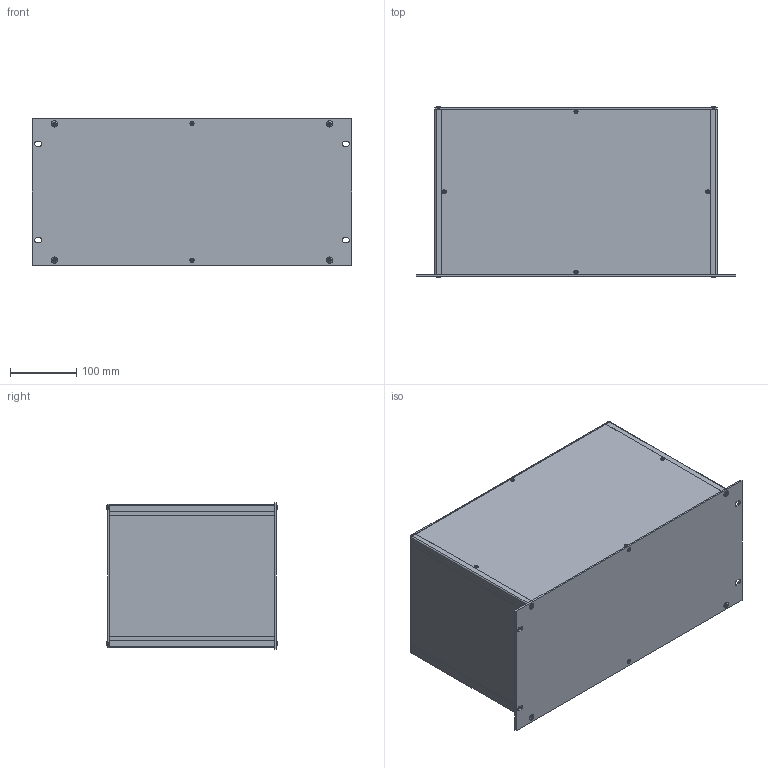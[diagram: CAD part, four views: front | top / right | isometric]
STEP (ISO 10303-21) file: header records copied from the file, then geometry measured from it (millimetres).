
FILE_DESCRIPTION(/* description */ (''),/* implementation_level */ '2;1');
FILE_NAME(/* name */ '//diskstation/Kunden/Gehäuse/Gehäuse/5HE/step/19 Zoll 5HE Rack Gehäuse Tiefe-250.step',/* time_stamp */ '2022-02-17T16:45:04+01:00',/* author */ (''),/* organization */ (''),/* preprocessor_version */ 'ST-DEVELOPER v18.1',/* originating_system */ 'Autodesk Translation Framework v10.10.0.1391',/* authorisation */ '');
FILE_SCHEMA (('AUTOMOTIVE_DESIGN { 1 0 10303 214 3 1 1 }'));
Length unit declared in the file: millimetre
Products named in the file (28): 5HE Gehäuse mit parametern; Gehäuse; Gehäuseprofil 1 unten links; Gehäuseprofil 2 oben rechts; Gehäuseprofil 1 unten rechts; Gehäuseprofil 2 oben links; Rückplatte; Deckel; Seitenteil links; Seitenteil rechts; Bodenplatte; Montageklotz Front/Deckel; Montageklotz Front/Boden; Montageklotz Rück/Deckel; Montageklotz Rück/Boden; Gewindestreifen; Frontplatte; Schrauben M5; Schraube Front; Schraube Front (1); Schraube Front (2); Schraube Front (3); Schraube Rück (1); Schraube Rück; Schraube Rück (2); Schraube Rück (3); Schrauben M3; HI_Senkschraube DIN 965 A v2 M3x5 24677.030.005(High)
Assembly tree (37 placements, depth 3):
  5HE Gehäuse mit parametern
    Gehäuse
      Gehäuseprofil 1 unten links
      Gehäuseprofil 2 oben rechts
      Gehäuseprofil 1 unten rechts
      Gehäuseprofil 2 oben links
      Rückplatte
      Deckel
      Seitenteil links
      Seitenteil rechts
      Bodenplatte
      Montageklotz Front/Deckel
      Montageklotz Front/Boden
      Montageklotz Rück/Deckel
      Montageklotz Rück/Boden
      Gewindestreifen  x2
    Frontplatte
    Schrauben M5
      Schraube Front
      Schraube Front (1)
      Schraube Front (2)
      Schraube Front (3)
      Schraube Rück (1)
      Schraube Rück
      Schraube Rück (2)
      Schraube Rück (3)
    Schrauben M3
      HI_Senkschraube DIN 965 A v2 M3x5 24677.030.005(High)  x10
Bounding box: 483 x 258.2 x 221.4 mm (x, y, z)
Volume: 1302165.8 mm3; surface area: 1123467 mm2
Topology: 34 solids, 34 shells, 854 faces, 2076 edges, 1290 vertices
Faces by surface type: plane 342, cylinder 332, cone 164, torus 8, bspline 8
Full cylindrical faces by diameter (mm): 2.529 x90, 3 x10, 3.2 x10, 4.234 x40, 5 x8, 5.2 x4, 5.3 x8, 5.6 x10, 9.5 x8
Entity records: 16845 total; most frequent: CARTESIAN_POINT 3078, DIRECTION 2820, ORIENTED_EDGE 2490, EDGE_CURVE 1245, AXIS2_PLACEMENT_3D 1060, VERTEX_POINT 778, EDGE_LOOP 731, LINE 700
